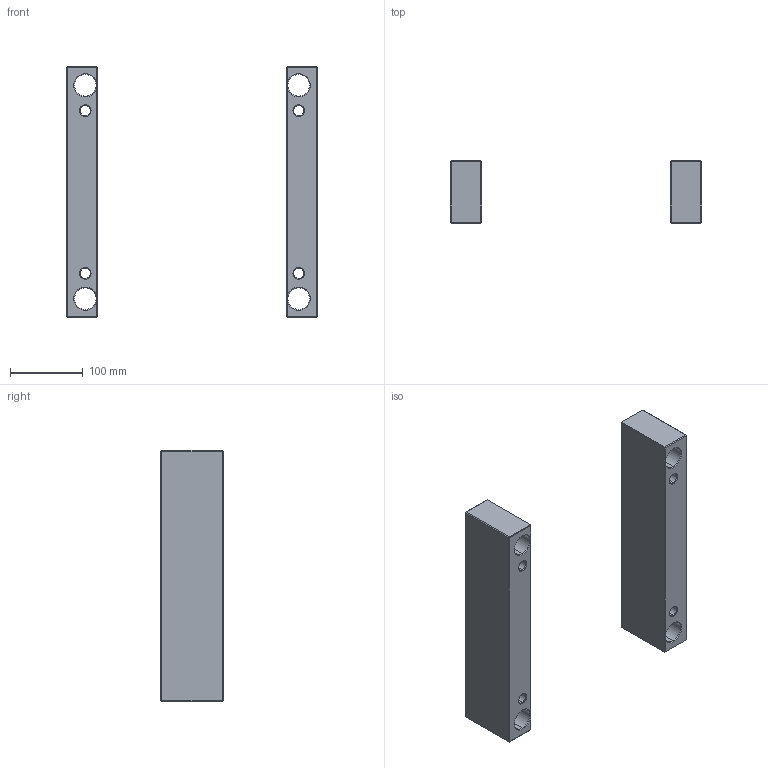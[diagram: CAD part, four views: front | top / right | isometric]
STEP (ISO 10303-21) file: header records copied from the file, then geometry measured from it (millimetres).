
FILE_DESCRIPTION (( 'STEP AP214' ), '1' );
FILE_NAME ('ESP-EU-346X346x86.STEP', '2020-04-16T10:01:26', ( 'August' ), ( '' ), 'SwSTEP 2.0', 'SolidWorks 2018', '' );
FILE_SCHEMA (( 'AUTOMOTIVE_DESIGN' ));
Length unit declared in the file: millimetre
Products named in the file (1): ESP-EU-346X346x86
Bounding box: 346 x 86 x 346 mm (x, y, z)
Volume: 2260443 mm3; surface area: 231133.8 mm2
Topology: 2 solids, 2 shells, 100 faces, 224 edges, 120 vertices
Faces by surface type: plane 52, cone 32, cylinder 16
Entity records: 2751 total; most frequent: DIRECTION 498, ORIENTED_EDGE 448, CARTESIAN_POINT 445, EDGE_CURVE 224, AXIS2_PLACEMENT_3D 173, LINE 152, VECTOR 152, VERTEX_POINT 120
